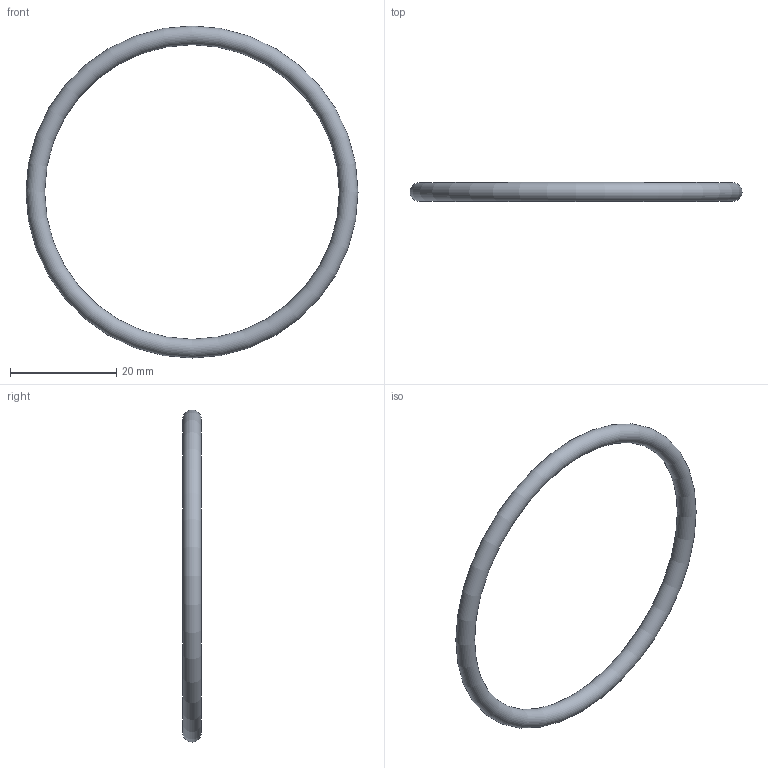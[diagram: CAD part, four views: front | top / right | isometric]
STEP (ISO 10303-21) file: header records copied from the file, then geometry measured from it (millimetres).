
FILE_DESCRIPTION( ( 'STEP AP203' ), '1' );
FILE_NAME( 'C:/Temp/Ganter_Step_05_03_2020/data/3_5/or638/O-Ring OR638-55.56-3.53-70.stp', '2020-03-12T13:44:33', ( 'License CC BY-ND 4.0' ), ( 'CADENAS' ), ' ', 'PARTsolutions', ' ' );
FILE_SCHEMA( ( 'CONFIG_CONTROL_DESIGN' ) );
Length unit declared in the file: millimetre
Products named in the file (1): _O-Ring OR638-55.56-3.53-70
Bounding box: 62.62 x 3.53 x 62.62 mm (x, y, z)
Volume: 1816.8 mm3; surface area: 2058.7 mm2
Topology: 1 solids, 1 shells, 1 faces, 2 edges, 1 vertices
Faces by surface type: torus 1
Entity records: 62 total; most frequent: CC_DESIGN_PERSON_AND_ORGANIZATION_ASSIGNMENT 5, PERSON_AND_ORGANIZATION_ROLE 4, DIRECTION 4, CARTESIAN_POINT 3, DATE_TIME_ROLE 2, CC_DESIGN_DATE_AND_TIME_ASSIGNMENT 2, AXIS2_PLACEMENT_3D 2, DIMENSIONAL_EXPONENTS 2
